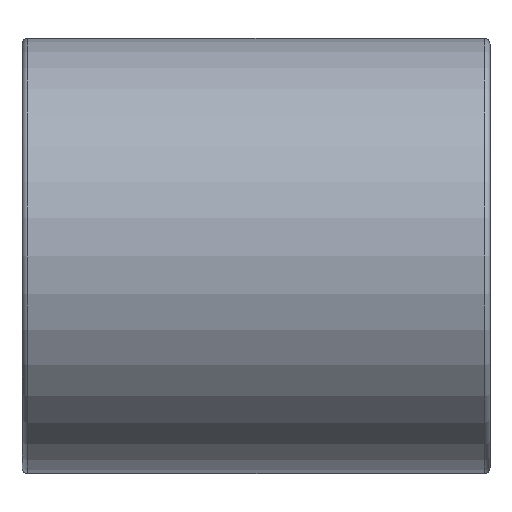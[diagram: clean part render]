
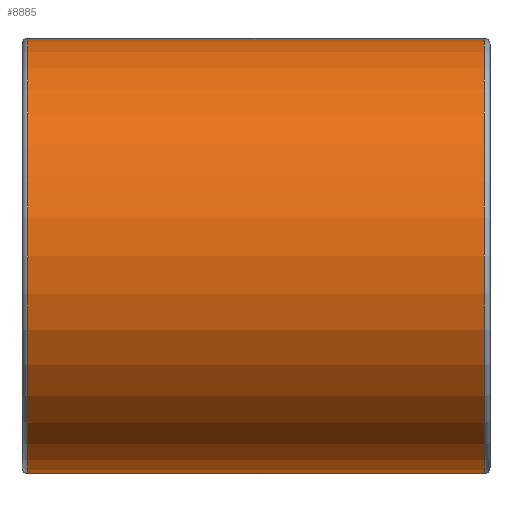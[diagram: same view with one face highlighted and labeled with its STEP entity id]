
A CAD part, front view. The second image highlights one B-rep face of the part: STEP entity #8885.
In plain terms, the highlighted cylindrical face has radius 18.6 mm (diameter 37.2 mm), a partial arc.
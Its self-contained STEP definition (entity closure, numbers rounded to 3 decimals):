
#102 = EDGE_CURVE ( 'NONE', #20883, #18175, #5522, .T. ) ;
#1629 = DIRECTION ( 'NONE',  ( -1., 0., 0. ) ) ;
#1891 = DIRECTION ( 'NONE',  ( 1., 0., 0. ) ) ;
#2453 = CIRCLE ( 'NONE', #27196, 18.6 ) ;
#3146 = EDGE_CURVE ( 'NONE', #23900, #15531, #2453, .T. ) ;
#3682 = CARTESIAN_POINT ( 'NONE',  ( -18.6, -74., 19.5 ) ) ;
#3966 = CARTESIAN_POINT ( 'NONE',  ( -18.6, -74., -19.5 ) ) ;
#5522 = CIRCLE ( 'NONE', #6583, 18.6 ) ;
#6583 = AXIS2_PLACEMENT_3D ( 'NONE', #8366, #30830, #1891 ) ;
#6810 = AXIS2_PLACEMENT_3D ( 'NONE', #21613, #23739, #1629 ) ;
#7820 = CARTESIAN_POINT ( 'NONE',  ( 18.6, -74., 20. ) ) ;
#8366 = CARTESIAN_POINT ( 'NONE',  ( 0., -74., 19.5 ) ) ;
#8885 = ADVANCED_FACE ( 'NONE', ( #18929 ), #28910, .T. ) ;
#9511 = DIRECTION ( 'NONE',  ( 0., 0., -1. ) ) ;
#9820 = ORIENTED_EDGE ( 'NONE', *, *, #24580, .T. ) ;
#13034 = ORIENTED_EDGE ( 'NONE', *, *, #3146, .T. ) ;
#13920 = DIRECTION ( 'NONE',  ( 0., 0., 1. ) ) ;
#14639 = VECTOR ( 'NONE', #25243, 1000. ) ;
#15531 = VERTEX_POINT ( 'NONE', #31645 ) ;
#16000 = VECTOR ( 'NONE', #9511, 1000. ) ;
#16939 = CARTESIAN_POINT ( 'NONE',  ( -18.6, -74., 20. ) ) ;
#18175 = VERTEX_POINT ( 'NONE', #3682 ) ;
#18929 = FACE_OUTER_BOUND ( 'NONE', #29254, .T. ) ;
#20883 = VERTEX_POINT ( 'NONE', #28962 ) ;
#21012 = DIRECTION ( 'NONE',  ( 1., 0., 0. ) ) ;
#21177 = CARTESIAN_POINT ( 'NONE',  ( 0., -74., -19.5 ) ) ;
#21613 = CARTESIAN_POINT ( 'NONE',  ( 0., -74., 20. ) ) ;
#23739 = DIRECTION ( 'NONE',  ( 0., 0., -1. ) ) ;
#23900 = VERTEX_POINT ( 'NONE', #3966 ) ;
#24247 = ORIENTED_EDGE ( 'NONE', *, *, #29077, .F. ) ;
#24372 = LINE ( 'NONE', #16939, #16000 ) ;
#24580 = EDGE_CURVE ( 'NONE', #18175, #23900, #24372, .T. ) ;
#25243 = DIRECTION ( 'NONE',  ( 0., 0., -1. ) ) ;
#27196 = AXIS2_PLACEMENT_3D ( 'NONE', #21177, #13920, #21012 ) ;
#28910 = CYLINDRICAL_SURFACE ( 'NONE', #6810, 18.6 ) ;
#28962 = CARTESIAN_POINT ( 'NONE',  ( 18.6, -74., 19.5 ) ) ;
#29077 = EDGE_CURVE ( 'NONE', #20883, #15531, #30443, .T. ) ;
#29254 = EDGE_LOOP ( 'NONE', ( #24247, #29437, #9820, #13034 ) ) ;
#29437 = ORIENTED_EDGE ( 'NONE', *, *, #102, .T. ) ;
#30443 = LINE ( 'NONE', #7820, #14639 ) ;
#30830 = DIRECTION ( 'NONE',  ( 0., 0., -1. ) ) ;
#31645 = CARTESIAN_POINT ( 'NONE',  ( 18.6, -74., -19.5 ) ) ;
